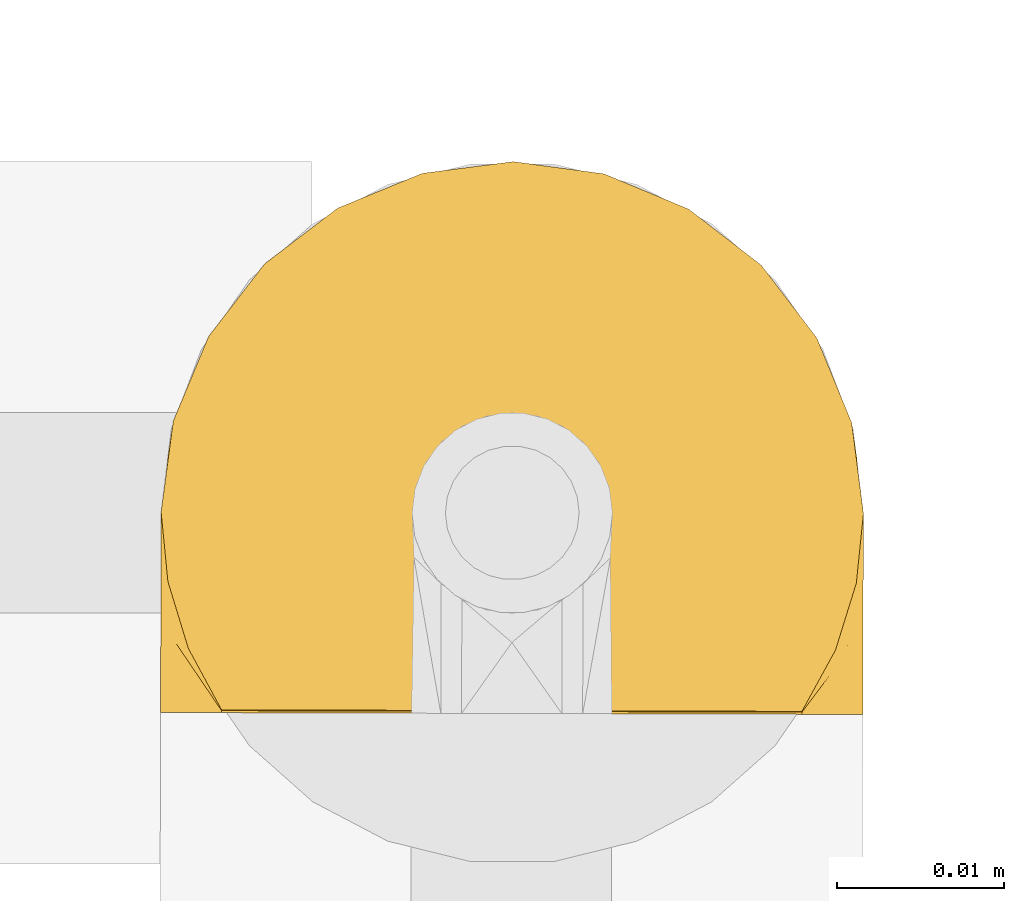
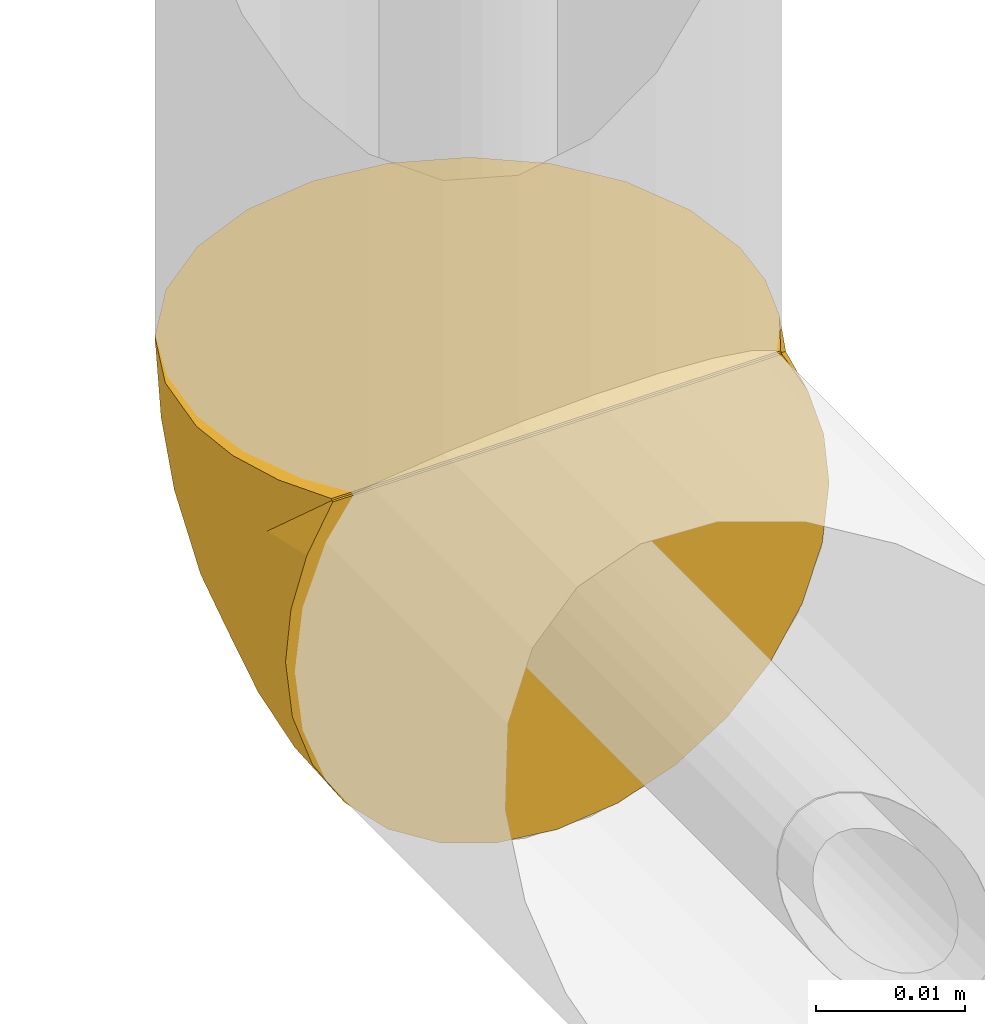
# One storey, part 43 of 156: 1 covering.
"""IFC2X3 building model written with IfcOpenShell, lengths in millimetres."""

from ifc_helpers import new_model, entity, si_unit, converted_unit, derived_unit, direction, frame, origin_with_axes, place, context, subcontext, project, spatial, open_shell, surface_model, source, transform, mapped, element, save


model = new_model("IFC2X3")

# Units and contexts
model_context = context("Model", 3, precision=0.01, world=frame((0.0, 4.29681676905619e-09, 0.0)), true_north=direction((4.01073788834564e-13, 1.0)))
plan_context = context("Plan", 3, precision=0.01, world=frame((0.0, 4.29681676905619e-09, 0.0)), true_north=direction((4.01073788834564e-13, 1.0)))
body_context = subcontext(model_context, "Body", "Model", "MODEL_VIEW")
ifc_project = project(units=[converted_unit("PLANEANGLEUNIT", "DEGREE", entity("IfcPositiveLengthMeasure", 0.0174532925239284), si_unit("PLANEANGLEUNIT", "RADIAN"), dimensions=[0, 0, 0, 0, 0, 0, 0]), si_unit("AREAUNIT", "SQUARE_METRE"), si_unit("LENGTHUNIT", "METRE", prefix="MILLI"), si_unit("MASSUNIT", "GRAM", prefix="KILO"), si_unit("POWERUNIT", "WATT"), si_unit("PRESSUREUNIT", "PASCAL", prefix="KILO"), si_unit("FORCEUNIT", "NEWTON", prefix="KILO"), si_unit("ELECTRICVOLTAGEUNIT", "VOLT"), si_unit("ELECTRICCURRENTUNIT", "AMPERE"), si_unit("THERMODYNAMICTEMPERATUREUNIT", "DEGREE_CELSIUS"), si_unit("TIMEUNIT", "SECOND"), si_unit("VOLUMEUNIT", "CUBIC_METRE"), derived_unit("LINEARVELOCITYUNIT", [(si_unit("LENGTHUNIT", "METRE"), 1), (si_unit("TIMEUNIT", "SECOND"), -1)]), derived_unit("VOLUMETRICFLOWRATEUNIT", [(si_unit("VOLUMEUNIT", "CUBIC_METRE"), 1), (si_unit("TIMEUNIT", "SECOND"), -1)]), derived_unit("THERMALTRANSMITTANCEUNIT", [(si_unit("POWERUNIT", "WATT"), 1), (si_unit("THERMODYNAMICTEMPERATUREUNIT", "KELVIN"), -1), (si_unit("AREAUNIT", "SQUARE_METRE"), -1)]), derived_unit("SOUNDPRESSUREUNIT", [(si_unit("PRESSUREUNIT", "PASCAL"), 1)])], contexts=[model_context, plan_context])

# Site, building, storey
site_placement = place(None, frame((0.0, -4.29681676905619e-09, 0.0), z_axis=(0.0, 0.0, 1.0), x_axis=(1.0, 0.0, 0.0)))
site = spatial("IfcSite", under=ifc_project, at=site_placement, CompositionType="ELEMENT")
building_placement = place(site_placement, frame((0.0, 4.29681676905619e-09, 0.0), z_axis=(0.0, 0.0, 1.0), x_axis=(1.0, 0.0, 0.0)))
building = spatial("IfcBuilding", under=site, at=building_placement, Name="mc-building", CompositionType="ELEMENT")
storey_placement = place(building_placement, frame((0.0, 0.0, 205200.0), z_axis=(0.0, 0.0, 1.0), x_axis=(1.0, 0.0, 0.0)))
storey = spatial("IfcBuildingStorey", under=building, at=storey_placement, Name="Nivå D + 1,2 m", CompositionType="ELEMENT", Elevation=205200.0)

# Covering
shared_shape = source(origin_with_axes(), body_context, "Body", "SurfaceModel", [
    surface_model("IfcShellBasedSurfaceModel", [(9.11487, 12.0, 18.91875), (13.09649, 12.0, 16.41591), (16.4209, 12.0, 13.09023), (18.92181, 12.0, 9.10852), (20.4741, 12.0, 4.67027), (-11.82707, 12.0, -17.35282), (-8.15142, 12.0, 19.35341), (-4.15564, 12.0, 20.58472), (0.0, 12.0, 21.0), (-11.82707, 12.0, 17.35282), (4.67527, 12.0, 20.47295), (20.47295, 12.0, -4.67527), (16.41591, 12.0, -13.09649), (18.91875, 12.0, -9.11487), (13.09023, 12.0, -16.4209), (-8.15927, 12.0, -19.3501), (-4.164, 12.0, -20.58303), (9.10852, 12.0, -18.92181), (4.67027, 12.0, -20.4741), (0.0, 12.0, -21.0), (21.0, 12.0, 0.0), (-12.0, 11.82707, -17.35282), (-12.0, 8.15516, -19.35183), (-12.0, 4.16002, -20.58383), (-12.0, 4.16002, 20.58383), (-12.0, 0.0, -21.0), (-12.0, 11.82707, 17.35282), (-12.0, 8.15516, 19.35183), (-12.0, -5.4352, 20.28444), (-12.0, 0.0, 21.0), (-12.0, -5.4352, -20.28444), (-12.0, -10.5, -18.18653), (-12.0, -20.28444, -5.4352), (-12.0, -18.18653, -10.5), (-12.0, -14.84924, -14.84924), (-12.0, -20.28444, 5.4352), (-12.0, -14.84924, 14.84924), (-12.0, -10.5, 18.18653), (-12.0, -18.18653, 10.5), (-12.0, -21.0, 0.0), (-11.87772, 11.87772, 17.35282), (-11.87772, 11.87772, -17.35282), (-7.89171, 7.88933, -20.0675), (-3.51472, 3.51472, -21.0), (-10.15533, 9.77459, -18.92136), (-3.8307, -18.32021, -8.03635), (-9.61131, 0.98943, -21.0), (-7.58578, -7.54405, -19.40147), (-7.13847, -3.34036, -20.59741), (-2.74824, -5.77246, -19.40147), (-5.63604, 2.63604, -21.0), (-4.24759, -2.23144, -20.57449), (-7.75736, 1.75736, -21.0), (18.81397, 4.05984, -6.93873), (0.47486, -18.11697, -4.08744), (4.5, -16.57884, 0.0), (-3.75, -18.78942, 0.0), (0.91689, -9.62382, -16.34247), (3.13638, -3.61219, -18.60195), (7.13838, -6.8269, -14.85207), (-5.55228, -11.93059, -16.66042), (-0.98943, 9.61131, -21.0), (-6.95843, -16.21351, -12.78399), (-0.92277, -14.43321, -12.78399), (6.3342, 7.27614, -19.82256), (11.698, -0.6152, -14.85191), (13.99734, 5.30163, -14.85207), (15.27661, 0.05078, -11.17596), (9.22253, 2.70301, -17.78315), (10.74735, 7.59683, -17.78315), (11.18424, -10.81942, -4.4156), (16.57884, -4.5, 0.0), (10.53942, -10.53942, 0.0), (3.22772, 2.4981, -20.13972), (-1.24147, -1.1093, -20.40614), (19.1331, 5.03263, 0.0), (15.41811, -4.66782, -6.12509), (17.23647, 6.34087, -11.17596), (-1.97886, 7.22262, -21.0), (6.15597, -11.13892, -11.7402), (1.82152, -16.33244, -7.73397), (-5.84542, -20.03708, -3.96182), (11.3585, -7.00066, -10.63054), (7.53331, -2.10619, -17.16765), (5.99046, -15.25154, -3.79473), (7.00824, -13.28349, -7.45614), (-3.83329, -18.3209, 8.03635), (-5.8454, -20.03708, 3.96183), (1.82049, -16.33215, 7.73577), (-0.92948, -14.43602, 12.78399), (-6.9624, -16.21422, 12.78399), (7.53783, -2.11376, 17.16194), (3.22701, 2.49143, 20.13886), (3.14009, -3.61483, 18.5996), (10.75321, 7.59353, 17.77914), (14.00236, 5.29841, 14.84641), (-1.23981, -1.11133, 20.40551), (-4.4662, -1.73392, 20.67779), (-2.74824, -5.77246, 19.40147), (11.70249, -0.61813, 14.84657), (9.22667, 2.69658, 17.77914), (-5.55432, -11.93114, 16.66042), (6.33931, 7.27295, 19.82055), (15.27818, 0.04438, 11.16959), (17.23984, 6.33717, 11.16959), (-7.58578, -7.54405, 19.40147), (-1.97886, 7.22262, 21.0), (0.91405, -9.62823, 16.34059), (15.42322, -4.66242, 6.11995), (18.81558, 4.05799, 6.93298), (-9.61131, 0.98943, 21.0), (11.35715, -7.00961, 10.62269), (-7.13847, -3.34036, 20.59741), (-7.75736, 1.75736, 21.0), (-0.98943, 9.61131, 21.0), (-5.63604, 2.63604, 21.0), (0.47481, -18.11686, 4.08802), (7.00849, -13.28236, 7.45813), (5.99184, -15.25046, 3.79551), (11.18709, -10.816, 4.41732), (6.16217, -11.13845, 11.73507), (-3.51472, 3.51472, 21.0), (7.13524, -6.83817, 14.84641), (-7.89171, 7.88933, 20.0675), (-6.33877, 5.17029, 20.76558)], [open_shell([[[0, 1, 2]], [[2, 3, 4]], [[0, 2, 5]], [[6, 7, 5]], [[8, 5, 7]], [[9, 6, 5]], [[0, 8, 10]], [[11, 2, 4]], [[2, 11, 5]], [[11, 12, 5]], [[12, 11, 13]], [[14, 5, 12]], [[15, 5, 16]], [[17, 5, 14]], [[18, 5, 17]], [[19, 16, 5]], [[19, 5, 18]], [[11, 4, 20]], [[21, 22, 23]], [[21, 23, 24]], [[24, 23, 25]], [[26, 21, 27]], [[24, 28, 29]], [[24, 27, 21]], [[28, 24, 25]], [[25, 30, 28]], [[30, 31, 32]], [[33, 32, 31]], [[33, 31, 34]], [[30, 32, 35]], [[28, 36, 37]], [[36, 35, 38]], [[35, 36, 28]], [[32, 39, 35]], [[28, 30, 35]], [[21, 26, 40]], [[41, 21, 40]], [[9, 5, 40]], [[41, 40, 5]], [[42, 23, 22]], [[25, 23, 43]], [[43, 23, 42]], [[42, 22, 44]], [[21, 41, 44]], [[5, 15, 44]], [[19, 43, 16]], [[44, 41, 5]], [[21, 44, 22]], [[15, 16, 42]], [[15, 42, 44]], [[43, 42, 16]], [[33, 45, 32]], [[30, 25, 46]], [[47, 31, 30]], [[47, 48, 49]], [[50, 51, 52]], [[13, 11, 53]], [[54, 55, 56]], [[57, 58, 59]], [[31, 60, 34]], [[18, 61, 19]], [[34, 62, 33]], [[33, 62, 45]], [[60, 63, 62]], [[17, 64, 18]], [[61, 18, 64]], [[65, 66, 67]], [[66, 14, 12]], [[68, 69, 66]], [[70, 71, 72]], [[17, 69, 64]], [[73, 58, 74]], [[11, 20, 75]], [[68, 66, 65]], [[67, 53, 76]], [[12, 13, 77]], [[63, 60, 57]], [[53, 71, 76]], [[77, 66, 12]], [[53, 77, 13]], [[67, 77, 53]], [[73, 78, 64]], [[69, 17, 14]], [[11, 75, 53]], [[73, 64, 68]], [[71, 53, 75]], [[47, 60, 31]], [[57, 59, 79]], [[63, 79, 80]], [[45, 54, 81]], [[59, 82, 79]], [[82, 67, 76]], [[65, 83, 68]], [[43, 78, 73]], [[72, 84, 70]], [[82, 59, 65]], [[54, 84, 55]], [[32, 81, 39]], [[66, 77, 67]], [[66, 69, 14]], [[64, 69, 68]], [[46, 48, 30]], [[60, 47, 49]], [[60, 49, 57]], [[58, 57, 49]], [[49, 48, 51]], [[83, 73, 68]], [[70, 82, 76]], [[84, 72, 55]], [[79, 82, 85]], [[48, 46, 52]], [[74, 50, 43]], [[30, 48, 47]], [[74, 49, 51]], [[73, 74, 43]], [[49, 74, 58]], [[81, 54, 56]], [[80, 54, 45]], [[39, 81, 56]], [[45, 81, 32]], [[82, 65, 67]], [[83, 59, 58]], [[59, 83, 65]], [[73, 83, 58]], [[80, 79, 85]], [[57, 79, 63]], [[60, 62, 34]], [[45, 62, 63]], [[63, 80, 45]], [[84, 80, 85]], [[80, 84, 54]], [[84, 85, 70]], [[82, 70, 85]], [[71, 70, 76]], [[64, 78, 61]], [[52, 51, 48]], [[50, 74, 51]], [[38, 35, 86]], [[39, 56, 87]], [[86, 88, 89]], [[86, 89, 90]], [[91, 92, 93]], [[94, 95, 1]], [[96, 97, 98]], [[99, 95, 100]], [[36, 101, 37]], [[100, 102, 92]], [[95, 103, 104]], [[105, 28, 37]], [[92, 102, 106]], [[89, 107, 101]], [[108, 71, 109]], [[28, 110, 29]], [[95, 2, 1]], [[75, 109, 71]], [[111, 108, 103]], [[109, 4, 3]], [[75, 20, 4]], [[36, 90, 101]], [[0, 94, 1]], [[112, 113, 110]], [[99, 103, 95]], [[36, 38, 90]], [[102, 0, 10]], [[93, 98, 107]], [[104, 109, 3]], [[94, 102, 100]], [[10, 114, 102]], [[3, 2, 104]], [[109, 103, 108]], [[113, 97, 115]], [[75, 4, 109]], [[56, 55, 116]], [[116, 88, 86]], [[117, 118, 119]], [[120, 117, 111]], [[89, 120, 107]], [[105, 101, 98]], [[106, 121, 92]], [[96, 115, 97]], [[103, 99, 111]], [[72, 119, 118]], [[56, 116, 87]], [[95, 104, 2]], [[109, 104, 103]], [[102, 94, 0]], [[95, 94, 100]], [[101, 105, 37]], [[112, 28, 105]], [[93, 107, 122]], [[108, 119, 71]], [[98, 101, 107]], [[122, 99, 91]], [[96, 92, 121]], [[120, 111, 122]], [[119, 111, 117]], [[96, 98, 93]], [[28, 112, 110]], [[98, 112, 105]], [[115, 96, 121]], [[112, 97, 113]], [[92, 96, 93]], [[118, 116, 55]], [[87, 86, 35]], [[86, 87, 116]], [[39, 87, 35]], [[91, 99, 100]], [[111, 99, 122]], [[92, 91, 100]], [[122, 91, 93]], [[107, 120, 122]], [[88, 120, 89]], [[86, 90, 38]], [[101, 90, 89]], [[72, 118, 55]], [[88, 118, 117]], [[71, 119, 72]], [[111, 119, 108]], [[118, 88, 116]], [[88, 117, 120]], [[114, 10, 8]], [[114, 106, 102]], [[98, 97, 112]], [[123, 27, 24]], [[26, 27, 40]], [[40, 27, 123]], [[123, 24, 124]], [[29, 121, 124]], [[8, 7, 124]], [[9, 40, 6]], [[124, 121, 8]], [[29, 124, 24]], [[7, 6, 123]], [[7, 123, 124]], [[40, 123, 6]], [[8, 0, 5]]])]),
])
covering_placement = place(storey_placement, frame((339150.45588, 461433.25941, 4159.22687000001), z_axis=(-0.999996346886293, 0.0027030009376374, 0.0), x_axis=(0.0, 0.0, -1.0)))
element("IfcCovering", 1, at=covering_placement, inside=storey, Name="BI10T - Cellegummi 18-32 mm kalde rør", PredefinedType="INSULATION", context=body_context, shape_type="MappedRepresentation", body=[
    mapped(shared_shape, transform((0.0, 0.0, 0.0), scale=1.0)),
])

save(model, "model.ifc")
